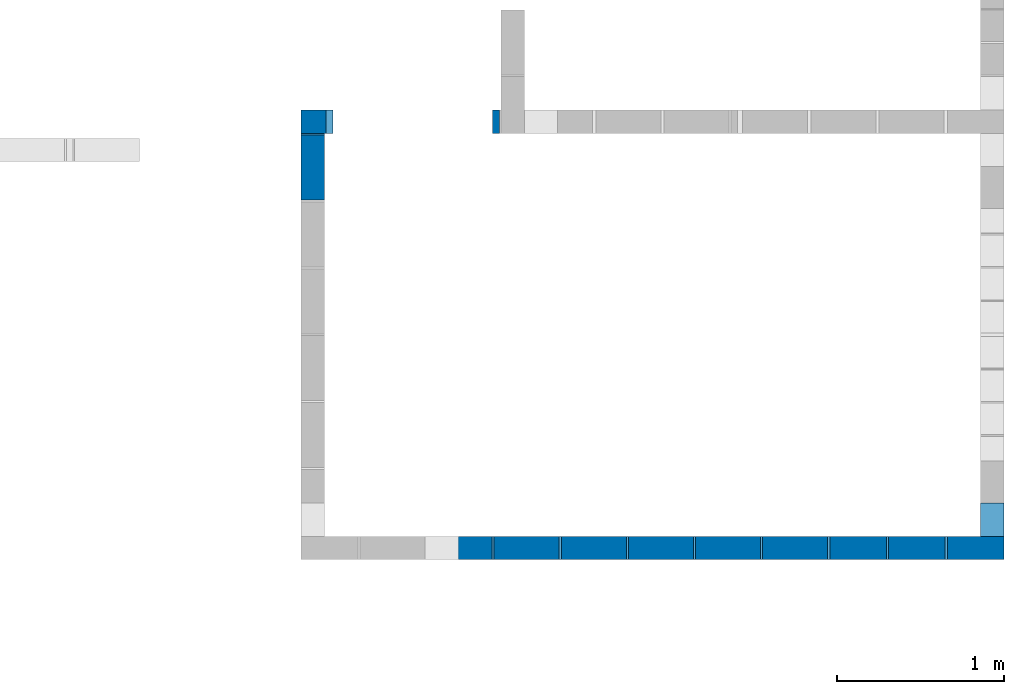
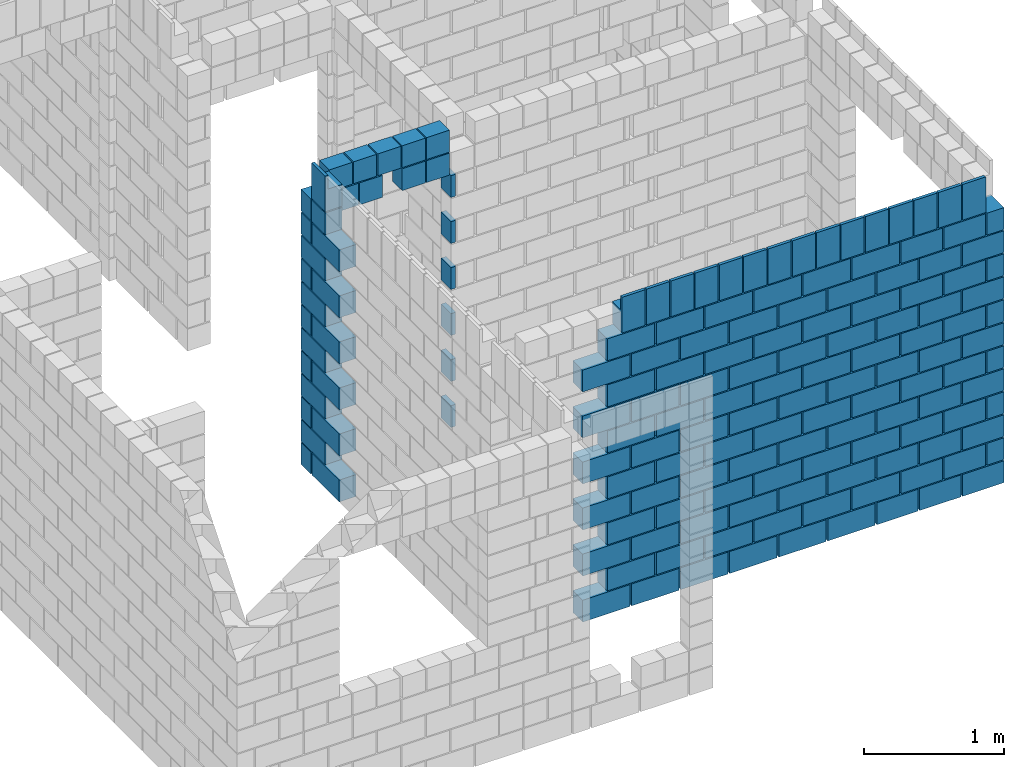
# One storey, part 4 of 12: 5 walls.
"""IFC4 building model written with IfcOpenShell, lengths in centimetres."""

import ifcopenshell
import ifcopenshell.guid

model = None  # the IFC model being written
_history = None  # IfcOwnerHistory: only IFC2X3 demands one
_inside = {}  # id of a spatial element -> (the spatial element, [elements in it])
_under = {}  # id of a project, library or spatial element -> (it, [spatial elements below it])
_declared = {}  # id of a project -> (the project, [libraries it declares])
_typed = {}  # id of a type object -> (the type object, [elements of that type])
_made_of = {}  # id of a material, layer set ... -> (it, [elements and type objects made of it])


def new_model(schema):
    """Start an empty IFC model of exactly this schema.

    Asked for "IFC4X3", IfcOpenShell would pick the latest addendum, in which some entities
    have other attributes; the version numbers below select the first issue.
    IFC2X3 requires an IfcOwnerHistory on every rooted entity: one is made here for all.
    """
    global model, _history
    if schema == "IFC4X3":
        model = ifcopenshell.file(schema_version=(4, 3, 0, 0))
    else:
        model = ifcopenshell.file(schema=schema)
    _inside.clear()
    _under.clear()
    _declared.clear()
    _typed.clear()
    _made_of.clear()
    _history = None
    if model.schema == "IFC2X3":
        org = make("IfcOrganization", Name="unknown")
        user = make(
            "IfcPersonAndOrganization",
            ThePerson=make("IfcPerson", FamilyName="unknown"),
            TheOrganization=org,
        )
        app = make(
            "IfcApplication",
            ApplicationDeveloper=org,
            Version="unknown",
            ApplicationFullName="unknown",
            ApplicationIdentifier="unknown",
        )
        _history = make(
            "IfcOwnerHistory",
            OwningUser=user,
            OwningApplication=app,
            ChangeAction="ADDED",
            CreationDate=0,
        )
    return model


def make(cls, **values):
    """One entity of the class cls with the attributes given. An attribute that is None is left unset."""
    return model.create_entity(
        cls, **{name: value for name, value in values.items() if value is not None}
    )


def rooted(cls, **values):
    """An entity with a GlobalId (a new one), such as an element, a storey or a relation."""
    return make(cls, GlobalId=ifcopenshell.guid.new(), OwnerHistory=_history, **values)


def si_unit(unit_type, name, prefix=None):
    """IfcSIUnit, for example si_unit("LENGTHUNIT", "METRE", prefix="MILLI")."""
    return make("IfcSIUnit", UnitType=unit_type, Prefix=prefix, Name=name)


def derived_unit(unit_type, elements):
    """IfcDerivedUnit: a product of units, each with its exponent."""
    return make(
        "IfcDerivedUnit",
        Elements=[
            make("IfcDerivedUnitElement", Unit=unit, Exponent=power)
            for unit, power in elements
        ],
        UnitType=unit_type,
    )


def assignment(units):
    """IfcUnitAssignment: the units of a project."""
    return None if units is None else make("IfcUnitAssignment", Units=units)


def point(xyz):
    """IfcCartesianPoint."""
    return None if xyz is None else make("IfcCartesianPoint", Coordinates=xyz)


def direction(xyz):
    """IfcDirection."""
    return None if xyz is None else make("IfcDirection", DirectionRatios=xyz)


def frame(location, z_axis=None, x_axis=None):
    """IfcAxis2Placement3D, a coordinate frame: its origin and axes. An axis left out is left unset."""
    return make(
        "IfcAxis2Placement3D",
        Location=point(location),
        Axis=direction(z_axis),
        RefDirection=direction(x_axis),
    )


def frame_2d(location, x_axis=None):
    """IfcAxis2Placement2D, a coordinate frame in the plane: its origin and x axis."""
    return make(
        "IfcAxis2Placement2D", Location=point(location), RefDirection=direction(x_axis)
    )


def origin():
    """The frame at (0, 0, 0) with its axes left unset."""
    return frame((0.0, 0.0, 0.0))


def origin_with_axes():
    """The frame at (0, 0, 0) with the z axis (0, 0, 1) and the x axis (1, 0, 0) written out."""
    return frame((0.0, 0.0, 0.0), z_axis=(0.0, 0.0, 1.0), x_axis=(1.0, 0.0, 0.0))


def origin_2d_with_axis():
    """The frame at (0, 0) in the plane with the x axis (1, 0) written out."""
    return frame_2d((0.0, 0.0), x_axis=(1.0, 0.0))


def place(relative_to, where):
    """IfcLocalPlacement: puts the frame where relative to a parent placement (None: the world)."""
    return make(
        "IfcLocalPlacement", PlacementRelTo=relative_to, RelativePlacement=where
    )


def context(
    kind, dimensions, precision=None, world=None, true_north=None, identifier=None
):
    """IfcGeometricRepresentationContext, for example the 3D "Model" context."""
    return make(
        "IfcGeometricRepresentationContext",
        ContextIdentifier=identifier,
        ContextType=kind,
        CoordinateSpaceDimension=dimensions,
        Precision=precision,
        WorldCoordinateSystem=world,
        TrueNorth=true_north,
    )


def project(units=None, contexts=None):
    """IfcProject with its units and contexts."""
    return rooted(
        "IfcProject",
        Name="project",
        RepresentationContexts=contexts,
        UnitsInContext=assignment(units),
    )


def spatial(cls, under=None, at=None, **own):
    """A site, building, storey or space (cls), placed at a placement, below another one or the project."""
    s = rooted(cls, ObjectPlacement=at, **own)
    if under is not None:
        _under.setdefault(under.id(), (under, []))[1].append(s)
    return s


def profile(cls, at=None, kind="AREA", **sizes):
    """A parametric profile (cls). Its sizes go by their IFC names, for example OverallWidth=200.0."""
    return make(cls, ProfileType=kind, Position=at, **sizes)


def rectangle(**sizes):
    """IfcRectangleProfileDef."""
    return profile("IfcRectangleProfileDef", **sizes)


def extrude(swept, where, along, depth):
    """IfcExtrudedAreaSolid: the profile swept, set in the frame where, extruded along a direction by depth."""
    return make(
        "IfcExtrudedAreaSolid",
        SweptArea=swept,
        Position=where,
        ExtrudedDirection=direction(along),
        Depth=depth,
    )


def shape(context_of_items, identifier, shape_type, items):
    """IfcShapeRepresentation: the items that make up one representation, for example the "Body"."""
    return make(
        "IfcShapeRepresentation",
        ContextOfItems=context_of_items,
        RepresentationIdentifier=identifier,
        RepresentationType=shape_type,
        Items=items,
    )


def made_of(thing, what):
    """Note that an element or type object is made of a material, layer set ...; save() writes the relation."""
    if what is not None:
        _made_of.setdefault(what.id(), (what, []))[1].append(thing)
    return thing


def element(
    cls,
    number,
    at=None,
    inside=None,
    cuts=None,
    type_object=None,
    material=None,
    context=None,
    identifier="Body",
    shape_type=None,
    held_by="IfcProductDefinitionShape",
    body=None,
    shapes=None,
    **own,
):
    """One element of the class cls, such as IfcWall. Its Tag is "e" and its number.

    at: its placement. inside: the storey or other place that contains it. cuts: it is an
    opening in that element (IfcRelVoidsElement). A single representation is given by context,
    identifier, shape_type and body (its items); several are given by shapes. held_by: the class
    of the entity that holds the representations. save() writes the other relations.
    """
    e = rooted(cls, Tag="e%d" % number, ObjectPlacement=at, **own)
    if body is not None:
        shapes = [shape(context, identifier, shape_type, body)]
    if shapes is not None:
        e.Representation = make(held_by, Representations=shapes)
    if inside is not None:
        _inside.setdefault(inside.id(), (inside, []))[1].append(e)
    if cuts is not None:
        rooted(
            "IfcRelVoidsElement", RelatingBuildingElement=cuts, RelatedOpeningElement=e
        )
    if type_object is not None:
        _typed.setdefault(type_object.id(), (type_object, []))[1].append(e)
    return made_of(e, material)


def aggregate(whole, parts):
    """IfcRelAggregates: a whole, such as a stair, and the parts it consists of."""
    return rooted("IfcRelAggregates", RelatingObject=whole, RelatedObjects=parts)


def save(model, path):
    """Write the relations noted so far, then the file.

    IfcRelAggregates (storeys below a building ...), IfcRelContainedInSpatialStructure (elements
    in a storey), IfcRelDefinesByType, IfcRelAssociatesMaterial and IfcRelDeclares: one each for
    every whole, place, type object, material and project.
    """
    for whole, parts in _under.values():
        aggregate(whole, parts)
    for where, things in _inside.values():
        rooted(
            "IfcRelContainedInSpatialStructure",
            RelatedElements=things,
            RelatingStructure=where,
        )
    for kind, things in _typed.values():
        rooted("IfcRelDefinesByType", RelatedObjects=things, RelatingType=kind)
    for what, things in _made_of.values():
        rooted("IfcRelAssociatesMaterial", RelatedObjects=things, RelatingMaterial=what)
    for by, libraries in _declared.values():
        rooted("IfcRelDeclares", RelatingContext=by, RelatedDefinitions=libraries)
    model.write(path)


model = new_model("IFC4")

# Units and contexts
model_context = context("Model", 3, precision=1e-05, world=origin_with_axes(), identifier="Body")
ifc_project = project(units=[si_unit("LENGTHUNIT", "METRE", prefix="CENTI"), si_unit("VOLUMEUNIT", "CUBIC_METRE"), si_unit("AREAUNIT", "SQUARE_METRE"), si_unit("POWERUNIT", "WATT"), si_unit("LUMINOUSFLUXUNIT", "LUMEN"), si_unit("ELECTRICCURRENTUNIT", "AMPERE"), si_unit("PRESSUREUNIT", "PASCAL", prefix="KILO"), si_unit("MASSUNIT", "GRAM", prefix="KILO"), si_unit("PLANEANGLEUNIT", "RADIAN"), derived_unit("VOLUMETRICFLOWRATEUNIT", [(si_unit("LENGTHUNIT", "METRE"), 3), (si_unit("TIMEUNIT", "SECOND"), -1)])], contexts=[model_context])

# Site, building, storey
site_placement = place(None, origin_with_axes())
site = spatial("IfcSite", under=ifc_project, at=site_placement)
building_placement = place(site_placement, origin())
building = spatial("IfcBuilding", under=site, at=building_placement)
storey_placement = place(building_placement, origin_with_axes())
storey = spatial("IfcBuildingStorey", under=building, at=storey_placement, Name="PISO", CompositionType="ELEMENT", Elevation=0.0)

# Walls
wall_1_placement = place(storey_placement, frame((286.5, 371.01, 239.0), z_axis=(0.0, 0.0, 1.0), x_axis=(1.0, 0.0, 0.0)))
element("IfcWall", 1, at=wall_1_placement, inside=storey, context=model_context, shape_type="SolidModel", body=[
    extrude(rectangle(XDim=19.0, YDim=14.0, at=origin_2d_with_axis()), frame((0.0, 10.0, -239.0), z_axis=(0.0, 0.0, 1.0), x_axis=(1.0, 0.0, 0.0)), (0.0, 0.0, 1.0), 19.0),
    extrude(rectangle(XDim=34.0, YDim=14.0, at=origin_2d_with_axis()), frame((-2.5, 0.0, -219.0), z_axis=(0.0, 0.0, 1.0), x_axis=(0.0, -1.0, 0.0)), (0.0, 0.0, 1.0), 19.0),
    extrude(rectangle(XDim=19.0, YDim=14.0, at=origin_2d_with_axis()), frame((0.0, 10.0, -199.0), z_axis=(0.0, 0.0, 1.0), x_axis=(1.0, 0.0, 0.0)), (0.0, 0.0, 1.0), 19.0),
    extrude(rectangle(XDim=34.0, YDim=14.0, at=origin_2d_with_axis()), frame((-2.5, 0.0, -179.0), z_axis=(0.0, 0.0, 1.0), x_axis=(0.0, -1.0, 0.0)), (0.0, 0.0, 1.0), 19.0),
    extrude(rectangle(XDim=19.0, YDim=14.0, at=origin_2d_with_axis()), frame((0.0, 10.0, -159.0), z_axis=(0.0, 0.0, 1.0), x_axis=(1.0, 0.0, 0.0)), (0.0, 0.0, 1.0), 19.0),
    extrude(rectangle(XDim=34.0, YDim=14.0, at=origin_2d_with_axis()), frame((-2.5, 0.0, -139.0), z_axis=(0.0, 0.0, 1.0), x_axis=(0.0, -1.0, 0.0)), (0.0, 0.0, 1.0), 19.0),
    extrude(rectangle(XDim=19.0, YDim=14.0, at=origin_2d_with_axis()), frame((0.0, 10.0, -119.0), z_axis=(0.0, 0.0, 1.0), x_axis=(1.0, 0.0, 0.0)), (0.0, 0.0, 1.0), 19.0),
    extrude(rectangle(XDim=34.0, YDim=14.0, at=origin_2d_with_axis()), frame((-2.5, 0.0, -99.0), z_axis=(0.0, 0.0, 1.0), x_axis=(0.0, -1.0, 0.0)), (0.0, 0.0, 1.0), 19.0),
    extrude(rectangle(XDim=19.0, YDim=14.0, at=origin_2d_with_axis()), frame((0.0, 10.0, -79.0), z_axis=(0.0, 0.0, 1.0), x_axis=(1.0, 0.0, 0.0)), (0.0, 0.0, 1.0), 19.0),
    extrude(rectangle(XDim=34.0, YDim=14.0, at=origin_2d_with_axis()), frame((-2.5, 0.0, -59.0), z_axis=(0.0, 0.0, 1.0), x_axis=(0.0, -1.0, 0.0)), (0.0, 0.0, 1.0), 19.0),
    extrude(rectangle(XDim=19.0, YDim=14.0, at=origin_2d_with_axis()), frame((0.0, 10.0, -39.0), z_axis=(0.0, 0.0, 1.0), x_axis=(1.0, 0.0, 0.0)), (0.0, 0.0, 1.0), 19.0),
    extrude(rectangle(XDim=19.0, YDim=14.0, at=origin_2d_with_axis()), frame((0.0, 10.0, -19.0), z_axis=(0.0, 0.0, 1.0), x_axis=(1.0, 0.0, 0.0)), (0.0, 0.0, 1.0), 19.0),
])
wall_2_placement = place(storey_placement, frame((682.01, 135.0, 239.0), z_axis=(0.0, 0.0, 1.0), x_axis=(1.0, 0.0, 0.0)))
element("IfcWall", 2, at=wall_2_placement, inside=storey, context=model_context, shape_type="SolidModel", body=[
    extrude(rectangle(XDim=34.0, YDim=14.0, at=origin_2d_with_axis()), frame((0.0, -10.0, -239.0), z_axis=(0.0, 0.0, 1.0), x_axis=(-1.0, 0.0, 0.0)), (0.0, 0.0, 1.0), 19.0),
    extrude(rectangle(XDim=34.0, YDim=14.0, at=origin_2d_with_axis()), frame((10.0, 0.0, -219.0), z_axis=(0.0, 0.0, 1.0), x_axis=(0.0, 1.0, 0.0)), (0.0, 0.0, 1.0), 19.0),
    extrude(rectangle(XDim=34.0, YDim=14.0, at=origin_2d_with_axis()), frame((0.0, -10.0, -199.0), z_axis=(0.0, 0.0, 1.0), x_axis=(-1.0, 0.0, 0.0)), (0.0, 0.0, 1.0), 19.0),
    extrude(rectangle(XDim=34.0, YDim=14.0, at=origin_2d_with_axis()), frame((10.0, 0.0, -179.0), z_axis=(0.0, 0.0, 1.0), x_axis=(0.0, 1.0, 0.0)), (0.0, 0.0, 1.0), 19.0),
    extrude(rectangle(XDim=34.0, YDim=14.0, at=origin_2d_with_axis()), frame((0.0, -10.0, -159.0), z_axis=(0.0, 0.0, 1.0), x_axis=(-1.0, 0.0, 0.0)), (0.0, 0.0, 1.0), 19.0),
    extrude(rectangle(XDim=34.0, YDim=14.0, at=origin_2d_with_axis()), frame((10.0, 0.0, -139.0), z_axis=(0.0, 0.0, 1.0), x_axis=(0.0, 1.0, 0.0)), (0.0, 0.0, 1.0), 19.0),
    extrude(rectangle(XDim=34.0, YDim=14.0, at=origin_2d_with_axis()), frame((0.0, -10.0, -119.0), z_axis=(0.0, 0.0, 1.0), x_axis=(-1.0, 0.0, 0.0)), (0.0, 0.0, 1.0), 19.0),
    extrude(rectangle(XDim=34.0, YDim=14.0, at=origin_2d_with_axis()), frame((10.0, 0.0, -99.0), z_axis=(0.0, 0.0, 1.0), x_axis=(0.0, 1.0, 0.0)), (0.0, 0.0, 1.0), 19.0),
    extrude(rectangle(XDim=34.0, YDim=14.0, at=origin_2d_with_axis()), frame((0.0, -10.0, -79.0), z_axis=(0.0, 0.0, 1.0), x_axis=(-1.0, 0.0, 0.0)), (0.0, 0.0, 1.0), 19.0),
    extrude(rectangle(XDim=34.0, YDim=14.0, at=origin_2d_with_axis()), frame((10.0, 0.0, -59.0), z_axis=(0.0, 0.0, 1.0), x_axis=(0.0, 1.0, 0.0)), (0.0, 0.0, 1.0), 19.0),
    extrude(rectangle(XDim=34.0, YDim=14.0, at=origin_2d_with_axis()), frame((0.0, -10.0, -39.0), z_axis=(0.0, 0.0, 1.0), x_axis=(-1.0, 0.0, 0.0)), (0.0, 0.0, 1.0), 19.0),
    extrude(rectangle(XDim=19.0, YDim=14.0, at=origin_2d_with_axis()), frame((10.0, -7.5, -19.0), z_axis=(0.0, 0.0, 1.0), x_axis=(0.0, 1.0, 0.0)), (0.0, 0.0, 1.0), 19.0),
])
wall_3_placement = place(storey_placement, frame((284.0, 353.4378571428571, 271.0), z_axis=(0.0, 0.0, 1.0), x_axis=(1.0, 0.0, 0.0)))
element("IfcWall", 3, at=wall_3_placement, inside=storey, Name="PAR-PISO-12", context=model_context, shape_type="SolidModel", body=[
    extrude(rectangle(XDim=39.0, YDim=14.0, at=origin_2d_with_axis()), frame((0.0, -0.072142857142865, -271.0), z_axis=(0.0, 0.0, 1.0), x_axis=(0.0, -1.0, 0.0)), (0.0, 0.0, 1.0), 19.0),
    extrude(rectangle(XDim=39.0, YDim=14.0, at=origin_2d_with_axis()), frame((0.0, -0.072142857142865, -231.0), z_axis=(0.0, 0.0, 1.0), x_axis=(0.0, -1.0, 0.0)), (0.0, 0.0, 1.0), 19.0),
    extrude(rectangle(XDim=39.0, YDim=14.0, at=origin_2d_with_axis()), frame((0.0, -0.072142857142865, -191.0), z_axis=(0.0, 0.0, 1.0), x_axis=(0.0, -1.0, 0.0)), (0.0, 0.0, 1.0), 19.0),
    extrude(rectangle(XDim=39.0, YDim=14.0, at=origin_2d_with_axis()), frame((0.0, -0.072142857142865, -151.0), z_axis=(0.0, 0.0, 1.0), x_axis=(0.0, -1.0, 0.0)), (0.0, 0.0, 1.0), 19.0),
    extrude(rectangle(XDim=39.0, YDim=14.0, at=origin_2d_with_axis()), frame((0.0, -0.072142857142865, -111.0), z_axis=(0.0, 0.0, 1.0), x_axis=(0.0, -1.0, 0.0)), (0.0, 0.0, 1.0), 19.0),
    extrude(rectangle(XDim=39.0, YDim=14.0, at=origin_2d_with_axis()), frame((0.0, -0.072142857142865, -71.0), z_axis=(0.0, 0.0, 1.0), x_axis=(0.0, -1.0, 0.0)), (0.0, 0.0, 1.0), 19.0),
    extrude(rectangle(XDim=19.0, YDim=14.0, at=origin_2d_with_axis()), frame((0.0, 10.072142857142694, -51.0), z_axis=(0.0, 0.0, 1.0), x_axis=(0.0, -1.0, 0.0)), (0.0, 0.0, 1.0), 19.0),
    extrude(rectangle(XDim=19.0, YDim=2.5, at=origin_2d_with_axis()), frame((-5.75, 10.072142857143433, -12.0), z_axis=(0.0, 0.0, 1.0), x_axis=(0.0, -1.0, 0.0)), (0.0, 0.0, 1.0), 12.0),
    extrude(rectangle(XDim=19.0, YDim=14.0, at=origin_2d_with_axis()), frame((0.0, 10.072142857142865, -31.0), z_axis=(0.0, 0.0, 1.0), x_axis=(0.0, -1.0, 0.0)), (0.0, 0.0, 1.0), 19.0),
])
wall_4_placement = place(storey_placement, frame((344.005, 381.01, 259.0), z_axis=(0.0, 0.0, 1.0), x_axis=(1.0, 0.0, 0.0)))
element("IfcWall", 4, at=wall_4_placement, inside=storey, Name="PAR-PISO-6", context=model_context, shape_type="SolidModel", body=[
    extrude(rectangle(XDim=4.0, YDim=14.0, at=origin_2d_with_axis()), frame((50.005, 0.0, -259.0), z_axis=(0.0, 0.0, 1.0), x_axis=(1.0, 0.0, 0.0)), (0.0, 0.0, 1.0), 19.0),
    extrude(rectangle(XDim=4.0, YDim=14.0, at=origin_2d_with_axis()), frame((-50.005, 0.0, -239.0), z_axis=(0.0, 0.0, 1.0), x_axis=(1.0, 0.0, 0.0)), (0.0, 0.0, 1.0), 19.0),
    extrude(rectangle(XDim=4.0, YDim=14.0, at=origin_2d_with_axis()), frame((50.005, 0.0, -219.0), z_axis=(0.0, 0.0, 1.0), x_axis=(1.0, 0.0, 0.0)), (0.0, 0.0, 1.0), 19.0),
    extrude(rectangle(XDim=4.0, YDim=14.0, at=origin_2d_with_axis()), frame((-50.005, 0.0, -199.0), z_axis=(0.0, 0.0, 1.0), x_axis=(1.0, 0.0, 0.0)), (0.0, 0.0, 1.0), 19.0),
    extrude(rectangle(XDim=4.0, YDim=14.0, at=origin_2d_with_axis()), frame((50.005, 0.0, -179.0), z_axis=(0.0, 0.0, 1.0), x_axis=(1.0, 0.0, 0.0)), (0.0, 0.0, 1.0), 19.0),
    extrude(rectangle(XDim=4.0, YDim=14.0, at=origin_2d_with_axis()), frame((-50.005, 0.0, -159.0), z_axis=(0.0, 0.0, 1.0), x_axis=(1.0, 0.0, 0.0)), (0.0, 0.0, 1.0), 19.0),
    extrude(rectangle(XDim=4.0, YDim=14.0, at=origin_2d_with_axis()), frame((50.005, 0.0, -139.0), z_axis=(0.0, 0.0, 1.0), x_axis=(1.0, 0.0, 0.0)), (0.0, 0.0, 1.0), 19.0),
    extrude(rectangle(XDim=4.0, YDim=14.0, at=origin_2d_with_axis()), frame((-50.005, 0.0, -119.0), z_axis=(0.0, 0.0, 1.0), x_axis=(1.0, 0.0, 0.0)), (0.0, 0.0, 1.0), 19.0),
    extrude(rectangle(XDim=4.0, YDim=14.0, at=origin_2d_with_axis()), frame((50.005, 0.0, -99.0), z_axis=(0.0, 0.0, 1.0), x_axis=(1.0, 0.0, 0.0)), (0.0, 0.0, 1.0), 19.0),
    extrude(rectangle(XDim=4.0, YDim=14.0, at=origin_2d_with_axis()), frame((-50.005, 0.0, -79.0), z_axis=(0.0, 0.0, 1.0), x_axis=(1.0, 0.0, 0.0)), (0.0, 0.0, 1.0), 19.0),
    extrude(rectangle(XDim=4.0, YDim=14.0, at=origin_2d_with_axis()), frame((50.005, 0.0, -59.0), z_axis=(0.0, 0.0, 1.0), x_axis=(1.0, 0.0, 0.0)), (0.0, 0.0, 1.0), 19.0),
    extrude(rectangle(XDim=19.0, YDim=14.0, at=origin_2d_with_axis()), frame((-37.505, 0.0, -39.0), z_axis=(0.0, 0.0, 1.0), x_axis=(1.0, 0.0, 0.0)), (0.0, 0.0, 1.0), 19.0),
    extrude(rectangle(XDim=19.0, YDim=14.0, at=origin_2d_with_axis()), frame((-17.505, 0.0, -39.0), z_axis=(0.0, 0.0, 1.0), x_axis=(1.0, 0.0, 0.0)), (0.0, 0.0, 1.0), 19.0),
    extrude(rectangle(XDim=19.0, YDim=14.0, at=origin_2d_with_axis()), frame((17.505, 0.0, -39.0), z_axis=(0.0, 0.0, 1.0), x_axis=(1.0, 0.0, 0.0)), (0.0, 0.0, 1.0), 19.0),
    extrude(rectangle(XDim=19.0, YDim=14.0, at=origin_2d_with_axis()), frame((37.505, 0.0, -39.0), z_axis=(0.0, 0.0, 1.0), x_axis=(1.0, 0.0, 0.0)), (0.0, 0.0, 1.0), 19.0),
    extrude(rectangle(XDim=19.0, YDim=14.0, at=origin_2d_with_axis()), frame((-42.505, 0.0, -19.0), z_axis=(0.0, 0.0, 1.0), x_axis=(1.0, 0.0, 0.0)), (0.0, 0.0, 1.0), 19.0),
    extrude(rectangle(XDim=19.0, YDim=14.0, at=origin_2d_with_axis()), frame((-22.505, 0.0, -19.0), z_axis=(0.0, 0.0, 1.0), x_axis=(1.0, 0.0, 0.0)), (0.0, 0.0, 1.0), 19.0),
    extrude(rectangle(XDim=19.0, YDim=14.0, at=origin_2d_with_axis()), frame((-2.505, 0.0, -19.0), z_axis=(0.0, 0.0, 1.0), x_axis=(1.0, 0.0, 0.0)), (0.0, 0.0, 1.0), 19.0),
    extrude(rectangle(XDim=19.0, YDim=14.0, at=origin_2d_with_axis()), frame((17.495, 0.0, -19.0), z_axis=(0.0, 0.0, 1.0), x_axis=(1.0, 0.0, 0.0)), (0.0, 0.0, 1.0), 19.0),
    extrude(rectangle(XDim=19.0, YDim=14.0, at=origin_2d_with_axis()), frame((37.495, 0.0, -19.0), z_axis=(0.0, 0.0, 1.0), x_axis=(1.0, 0.0, 0.0)), (0.0, 0.0, 1.0), 19.0),
])
wall_5_placement = place(storey_placement, frame((518.306, 125.0, 271.0), z_axis=(0.0, 0.0, 1.0), x_axis=(1.0, 0.0, 0.0)))
element("IfcWall", 5, at=wall_5_placement, inside=storey, Name="PAR-PISO-9", context=model_context, shape_type="SolidModel", body=[
    extrude(rectangle(XDim=34.0, YDim=14.0, at=origin_2d_with_axis()), frame((128.403, 0.0, -271.0), z_axis=(0.0, 0.0, 1.0), x_axis=(-1.0, 0.0, 0.0)), (0.0, 0.0, 1.0), 19.0),
    extrude(rectangle(XDim=34.0, YDim=14.0, at=origin_2d_with_axis()), frame((93.102, 0.0, -271.0), z_axis=(0.0, 0.0, 1.0), x_axis=(-1.0, 0.0, 0.0)), (0.0, 0.0, 1.0), 19.0),
    extrude(rectangle(XDim=39.0, YDim=14.0, at=origin_2d_with_axis()), frame((55.301, 0.0, -271.0), z_axis=(0.0, 0.0, 1.0), x_axis=(-1.0, 0.0, 0.0)), (0.0, 0.0, 1.0), 19.0),
    extrude(rectangle(XDim=39.0, YDim=14.0, at=origin_2d_with_axis()), frame((15.0, 0.0, -271.0), z_axis=(0.0, 0.0, 1.0), x_axis=(-1.0, 0.0, 0.0)), (0.0, 0.0, 1.0), 19.0),
    extrude(rectangle(XDim=39.0, YDim=14.0, at=origin_2d_with_axis()), frame((-25.301, 0.0, -271.0), z_axis=(0.0, 0.0, 1.0), x_axis=(-1.0, 0.0, 0.0)), (0.0, 0.0, 1.0), 19.0),
    extrude(rectangle(XDim=39.0, YDim=14.0, at=origin_2d_with_axis()), frame((-65.602, 0.0, -271.0), z_axis=(0.0, 0.0, 1.0), x_axis=(-1.0, 0.0, 0.0)), (0.0, 0.0, 1.0), 19.0),
    extrude(rectangle(XDim=39.0, YDim=14.0, at=origin_2d_with_axis()), frame((-105.903, 0.0, -271.0), z_axis=(0.0, 0.0, 1.0), x_axis=(-1.0, 0.0, 0.0)), (0.0, 0.0, 1.0), 19.0),
    extrude(rectangle(XDim=39.0, YDim=14.0, at=origin_2d_with_axis()), frame((-146.204, 0.0, -271.0), z_axis=(0.0, 0.0, 1.0), x_axis=(-1.0, 0.0, 0.0)), (0.0, 0.0, 1.0), 19.0),
    extrude(rectangle(XDim=34.0, YDim=14.0, at=origin_2d_with_axis()), frame((148.4303636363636, 0.0, -251.0), z_axis=(0.0, 0.0, 1.0), x_axis=(-1.0, 0.0, 0.0)), (0.0, 0.0, 1.0), 19.0),
    extrude(rectangle(XDim=34.0, YDim=14.0, at=origin_2d_with_axis()), frame((113.15672727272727, 0.0, -251.0), z_axis=(0.0, 0.0, 1.0), x_axis=(-1.0, 0.0, 0.0)), (0.0, 0.0, 1.0), 19.0),
    extrude(rectangle(XDim=39.0, YDim=14.0, at=origin_2d_with_axis()), frame((75.38309090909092, 0.0, -251.0), z_axis=(0.0, 0.0, 1.0), x_axis=(-1.0, 0.0, 0.0)), (0.0, 0.0, 1.0), 19.0),
    extrude(rectangle(XDim=39.0, YDim=14.0, at=origin_2d_with_axis()), frame((35.10945454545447, 0.0, -251.0), z_axis=(0.0, 0.0, 1.0), x_axis=(-1.0, 0.0, 0.0)), (0.0, 0.0, 1.0), 19.0),
    extrude(rectangle(XDim=39.0, YDim=14.0, at=origin_2d_with_axis()), frame((-5.164181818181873, 0.0, -251.0), z_axis=(0.0, 0.0, 1.0), x_axis=(-1.0, 0.0, 0.0)), (0.0, 0.0, 1.0), 19.0),
    extrude(rectangle(XDim=39.0, YDim=14.0, at=origin_2d_with_axis()), frame((-45.437818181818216, 0.0, -251.0), z_axis=(0.0, 0.0, 1.0), x_axis=(-1.0, 0.0, 0.0)), (0.0, 0.0, 1.0), 19.0),
    extrude(rectangle(XDim=39.0, YDim=14.0, at=origin_2d_with_axis()), frame((-85.71145454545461, 0.0, -251.0), z_axis=(0.0, 0.0, 1.0), x_axis=(-1.0, 0.0, 0.0)), (0.0, 0.0, 1.0), 19.0),
    extrude(rectangle(XDim=39.0, YDim=14.0, at=origin_2d_with_axis()), frame((-125.98509090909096, 0.0, -251.0), z_axis=(0.0, 0.0, 1.0), x_axis=(-1.0, 0.0, 0.0)), (0.0, 0.0, 1.0), 19.0),
    extrude(rectangle(XDim=34.0, YDim=14.0, at=origin_2d_with_axis()), frame((128.403, 0.0, -231.0), z_axis=(0.0, 0.0, 1.0), x_axis=(-1.0, 0.0, 0.0)), (0.0, 0.0, 1.0), 19.0),
    extrude(rectangle(XDim=34.0, YDim=14.0, at=origin_2d_with_axis()), frame((93.102, 0.0, -231.0), z_axis=(0.0, 0.0, 1.0), x_axis=(-1.0, 0.0, 0.0)), (0.0, 0.0, 1.0), 19.0),
    extrude(rectangle(XDim=39.0, YDim=14.0, at=origin_2d_with_axis()), frame((55.301, 0.0, -231.0), z_axis=(0.0, 0.0, 1.0), x_axis=(-1.0, 0.0, 0.0)), (0.0, 0.0, 1.0), 19.0),
    extrude(rectangle(XDim=39.0, YDim=14.0, at=origin_2d_with_axis()), frame((15.0, 0.0, -231.0), z_axis=(0.0, 0.0, 1.0), x_axis=(-1.0, 0.0, 0.0)), (0.0, 0.0, 1.0), 19.0),
    extrude(rectangle(XDim=39.0, YDim=14.0, at=origin_2d_with_axis()), frame((-25.301, 0.0, -231.0), z_axis=(0.0, 0.0, 1.0), x_axis=(-1.0, 0.0, 0.0)), (0.0, 0.0, 1.0), 19.0),
    extrude(rectangle(XDim=39.0, YDim=14.0, at=origin_2d_with_axis()), frame((-65.602, 0.0, -231.0), z_axis=(0.0, 0.0, 1.0), x_axis=(-1.0, 0.0, 0.0)), (0.0, 0.0, 1.0), 19.0),
    extrude(rectangle(XDim=39.0, YDim=14.0, at=origin_2d_with_axis()), frame((-105.903, 0.0, -231.0), z_axis=(0.0, 0.0, 1.0), x_axis=(-1.0, 0.0, 0.0)), (0.0, 0.0, 1.0), 19.0),
    extrude(rectangle(XDim=39.0, YDim=14.0, at=origin_2d_with_axis()), frame((-146.204, 0.0, -231.0), z_axis=(0.0, 0.0, 1.0), x_axis=(-1.0, 0.0, 0.0)), (0.0, 0.0, 1.0), 19.0),
    extrude(rectangle(XDim=34.0, YDim=14.0, at=origin_2d_with_axis()), frame((148.4303636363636, 0.0, -211.0), z_axis=(0.0, 0.0, 1.0), x_axis=(-1.0, 0.0, 0.0)), (0.0, 0.0, 1.0), 19.0),
    extrude(rectangle(XDim=34.0, YDim=14.0, at=origin_2d_with_axis()), frame((113.15672727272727, 0.0, -211.0), z_axis=(0.0, 0.0, 1.0), x_axis=(-1.0, 0.0, 0.0)), (0.0, 0.0, 1.0), 19.0),
    extrude(rectangle(XDim=39.0, YDim=14.0, at=origin_2d_with_axis()), frame((75.38309090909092, 0.0, -211.0), z_axis=(0.0, 0.0, 1.0), x_axis=(-1.0, 0.0, 0.0)), (0.0, 0.0, 1.0), 19.0),
    extrude(rectangle(XDim=39.0, YDim=14.0, at=origin_2d_with_axis()), frame((35.10945454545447, 0.0, -211.0), z_axis=(0.0, 0.0, 1.0), x_axis=(-1.0, 0.0, 0.0)), (0.0, 0.0, 1.0), 19.0),
    extrude(rectangle(XDim=39.0, YDim=14.0, at=origin_2d_with_axis()), frame((-5.164181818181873, 0.0, -211.0), z_axis=(0.0, 0.0, 1.0), x_axis=(-1.0, 0.0, 0.0)), (0.0, 0.0, 1.0), 19.0),
    extrude(rectangle(XDim=39.0, YDim=14.0, at=origin_2d_with_axis()), frame((-45.437818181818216, 0.0, -211.0), z_axis=(0.0, 0.0, 1.0), x_axis=(-1.0, 0.0, 0.0)), (0.0, 0.0, 1.0), 19.0),
    extrude(rectangle(XDim=39.0, YDim=14.0, at=origin_2d_with_axis()), frame((-85.71145454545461, 0.0, -211.0), z_axis=(0.0, 0.0, 1.0), x_axis=(-1.0, 0.0, 0.0)), (0.0, 0.0, 1.0), 19.0),
    extrude(rectangle(XDim=39.0, YDim=14.0, at=origin_2d_with_axis()), frame((-125.98509090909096, 0.0, -211.0), z_axis=(0.0, 0.0, 1.0), x_axis=(-1.0, 0.0, 0.0)), (0.0, 0.0, 1.0), 19.0),
    extrude(rectangle(XDim=34.0, YDim=14.0, at=origin_2d_with_axis()), frame((128.403, 0.0, -191.0), z_axis=(0.0, 0.0, 1.0), x_axis=(-1.0, 0.0, 0.0)), (0.0, 0.0, 1.0), 19.0),
    extrude(rectangle(XDim=34.0, YDim=14.0, at=origin_2d_with_axis()), frame((93.102, 0.0, -191.0), z_axis=(0.0, 0.0, 1.0), x_axis=(-1.0, 0.0, 0.0)), (0.0, 0.0, 1.0), 19.0),
    extrude(rectangle(XDim=39.0, YDim=14.0, at=origin_2d_with_axis()), frame((55.301, 0.0, -191.0), z_axis=(0.0, 0.0, 1.0), x_axis=(-1.0, 0.0, 0.0)), (0.0, 0.0, 1.0), 19.0),
    extrude(rectangle(XDim=39.0, YDim=14.0, at=origin_2d_with_axis()), frame((15.0, 0.0, -191.0), z_axis=(0.0, 0.0, 1.0), x_axis=(-1.0, 0.0, 0.0)), (0.0, 0.0, 1.0), 19.0),
    extrude(rectangle(XDim=39.0, YDim=14.0, at=origin_2d_with_axis()), frame((-25.301, 0.0, -191.0), z_axis=(0.0, 0.0, 1.0), x_axis=(-1.0, 0.0, 0.0)), (0.0, 0.0, 1.0), 19.0),
    extrude(rectangle(XDim=39.0, YDim=14.0, at=origin_2d_with_axis()), frame((-65.602, 0.0, -191.0), z_axis=(0.0, 0.0, 1.0), x_axis=(-1.0, 0.0, 0.0)), (0.0, 0.0, 1.0), 19.0),
    extrude(rectangle(XDim=39.0, YDim=14.0, at=origin_2d_with_axis()), frame((-105.903, 0.0, -191.0), z_axis=(0.0, 0.0, 1.0), x_axis=(-1.0, 0.0, 0.0)), (0.0, 0.0, 1.0), 19.0),
    extrude(rectangle(XDim=39.0, YDim=14.0, at=origin_2d_with_axis()), frame((-146.204, 0.0, -191.0), z_axis=(0.0, 0.0, 1.0), x_axis=(-1.0, 0.0, 0.0)), (0.0, 0.0, 1.0), 19.0),
    extrude(rectangle(XDim=34.0, YDim=14.0, at=origin_2d_with_axis()), frame((148.4303636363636, 0.0, -171.0), z_axis=(0.0, 0.0, 1.0), x_axis=(-1.0, 0.0, 0.0)), (0.0, 0.0, 1.0), 19.0),
    extrude(rectangle(XDim=34.0, YDim=14.0, at=origin_2d_with_axis()), frame((113.15672727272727, 0.0, -171.0), z_axis=(0.0, 0.0, 1.0), x_axis=(-1.0, 0.0, 0.0)), (0.0, 0.0, 1.0), 19.0),
    extrude(rectangle(XDim=39.0, YDim=14.0, at=origin_2d_with_axis()), frame((75.38309090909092, 0.0, -171.0), z_axis=(0.0, 0.0, 1.0), x_axis=(-1.0, 0.0, 0.0)), (0.0, 0.0, 1.0), 19.0),
    extrude(rectangle(XDim=39.0, YDim=14.0, at=origin_2d_with_axis()), frame((35.10945454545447, 0.0, -171.0), z_axis=(0.0, 0.0, 1.0), x_axis=(-1.0, 0.0, 0.0)), (0.0, 0.0, 1.0), 19.0),
    extrude(rectangle(XDim=39.0, YDim=14.0, at=origin_2d_with_axis()), frame((-5.164181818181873, 0.0, -171.0), z_axis=(0.0, 0.0, 1.0), x_axis=(-1.0, 0.0, 0.0)), (0.0, 0.0, 1.0), 19.0),
    extrude(rectangle(XDim=39.0, YDim=14.0, at=origin_2d_with_axis()), frame((-45.437818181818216, 0.0, -171.0), z_axis=(0.0, 0.0, 1.0), x_axis=(-1.0, 0.0, 0.0)), (0.0, 0.0, 1.0), 19.0),
    extrude(rectangle(XDim=39.0, YDim=14.0, at=origin_2d_with_axis()), frame((-85.71145454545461, 0.0, -171.0), z_axis=(0.0, 0.0, 1.0), x_axis=(-1.0, 0.0, 0.0)), (0.0, 0.0, 1.0), 19.0),
    extrude(rectangle(XDim=39.0, YDim=14.0, at=origin_2d_with_axis()), frame((-125.98509090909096, 0.0, -171.0), z_axis=(0.0, 0.0, 1.0), x_axis=(-1.0, 0.0, 0.0)), (0.0, 0.0, 1.0), 19.0),
    extrude(rectangle(XDim=34.0, YDim=14.0, at=origin_2d_with_axis()), frame((128.403, 0.0, -151.0), z_axis=(0.0, 0.0, 1.0), x_axis=(-1.0, 0.0, 0.0)), (0.0, 0.0, 1.0), 19.0),
    extrude(rectangle(XDim=34.0, YDim=14.0, at=origin_2d_with_axis()), frame((93.102, 0.0, -151.0), z_axis=(0.0, 0.0, 1.0), x_axis=(-1.0, 0.0, 0.0)), (0.0, 0.0, 1.0), 19.0),
    extrude(rectangle(XDim=39.0, YDim=14.0, at=origin_2d_with_axis()), frame((55.301, 0.0, -151.0), z_axis=(0.0, 0.0, 1.0), x_axis=(-1.0, 0.0, 0.0)), (0.0, 0.0, 1.0), 19.0),
    extrude(rectangle(XDim=39.0, YDim=14.0, at=origin_2d_with_axis()), frame((15.0, 0.0, -151.0), z_axis=(0.0, 0.0, 1.0), x_axis=(-1.0, 0.0, 0.0)), (0.0, 0.0, 1.0), 19.0),
    extrude(rectangle(XDim=39.0, YDim=14.0, at=origin_2d_with_axis()), frame((-25.301, 0.0, -151.0), z_axis=(0.0, 0.0, 1.0), x_axis=(-1.0, 0.0, 0.0)), (0.0, 0.0, 1.0), 19.0),
    extrude(rectangle(XDim=39.0, YDim=14.0, at=origin_2d_with_axis()), frame((-65.602, 0.0, -151.0), z_axis=(0.0, 0.0, 1.0), x_axis=(-1.0, 0.0, 0.0)), (0.0, 0.0, 1.0), 19.0),
    extrude(rectangle(XDim=39.0, YDim=14.0, at=origin_2d_with_axis()), frame((-105.903, 0.0, -151.0), z_axis=(0.0, 0.0, 1.0), x_axis=(-1.0, 0.0, 0.0)), (0.0, 0.0, 1.0), 19.0),
    extrude(rectangle(XDim=39.0, YDim=14.0, at=origin_2d_with_axis()), frame((-146.204, 0.0, -151.0), z_axis=(0.0, 0.0, 1.0), x_axis=(-1.0, 0.0, 0.0)), (0.0, 0.0, 1.0), 19.0),
    extrude(rectangle(XDim=34.0, YDim=14.0, at=origin_2d_with_axis()), frame((148.4303636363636, 0.0, -131.0), z_axis=(0.0, 0.0, 1.0), x_axis=(-1.0, 0.0, 0.0)), (0.0, 0.0, 1.0), 19.0),
    extrude(rectangle(XDim=34.0, YDim=14.0, at=origin_2d_with_axis()), frame((113.15672727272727, 0.0, -131.0), z_axis=(0.0, 0.0, 1.0), x_axis=(-1.0, 0.0, 0.0)), (0.0, 0.0, 1.0), 19.0),
    extrude(rectangle(XDim=39.0, YDim=14.0, at=origin_2d_with_axis()), frame((75.38309090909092, 0.0, -131.0), z_axis=(0.0, 0.0, 1.0), x_axis=(-1.0, 0.0, 0.0)), (0.0, 0.0, 1.0), 19.0),
    extrude(rectangle(XDim=39.0, YDim=14.0, at=origin_2d_with_axis()), frame((35.10945454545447, 0.0, -131.0), z_axis=(0.0, 0.0, 1.0), x_axis=(-1.0, 0.0, 0.0)), (0.0, 0.0, 1.0), 19.0),
    extrude(rectangle(XDim=39.0, YDim=14.0, at=origin_2d_with_axis()), frame((-5.164181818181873, 0.0, -131.0), z_axis=(0.0, 0.0, 1.0), x_axis=(-1.0, 0.0, 0.0)), (0.0, 0.0, 1.0), 19.0),
    extrude(rectangle(XDim=39.0, YDim=14.0, at=origin_2d_with_axis()), frame((-45.437818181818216, 0.0, -131.0), z_axis=(0.0, 0.0, 1.0), x_axis=(-1.0, 0.0, 0.0)), (0.0, 0.0, 1.0), 19.0),
    extrude(rectangle(XDim=39.0, YDim=14.0, at=origin_2d_with_axis()), frame((-85.71145454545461, 0.0, -131.0), z_axis=(0.0, 0.0, 1.0), x_axis=(-1.0, 0.0, 0.0)), (0.0, 0.0, 1.0), 19.0),
    extrude(rectangle(XDim=39.0, YDim=14.0, at=origin_2d_with_axis()), frame((-125.98509090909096, 0.0, -131.0), z_axis=(0.0, 0.0, 1.0), x_axis=(-1.0, 0.0, 0.0)), (0.0, 0.0, 1.0), 19.0),
    extrude(rectangle(XDim=34.0, YDim=14.0, at=origin_2d_with_axis()), frame((128.403, 0.0, -111.0), z_axis=(0.0, 0.0, 1.0), x_axis=(-1.0, 0.0, 0.0)), (0.0, 0.0, 1.0), 19.0),
    extrude(rectangle(XDim=34.0, YDim=14.0, at=origin_2d_with_axis()), frame((93.102, 0.0, -111.0), z_axis=(0.0, 0.0, 1.0), x_axis=(-1.0, 0.0, 0.0)), (0.0, 0.0, 1.0), 19.0),
    extrude(rectangle(XDim=39.0, YDim=14.0, at=origin_2d_with_axis()), frame((55.301, 0.0, -111.0), z_axis=(0.0, 0.0, 1.0), x_axis=(-1.0, 0.0, 0.0)), (0.0, 0.0, 1.0), 19.0),
    extrude(rectangle(XDim=39.0, YDim=14.0, at=origin_2d_with_axis()), frame((15.0, 0.0, -111.0), z_axis=(0.0, 0.0, 1.0), x_axis=(-1.0, 0.0, 0.0)), (0.0, 0.0, 1.0), 19.0),
    extrude(rectangle(XDim=39.0, YDim=14.0, at=origin_2d_with_axis()), frame((-25.301, 0.0, -111.0), z_axis=(0.0, 0.0, 1.0), x_axis=(-1.0, 0.0, 0.0)), (0.0, 0.0, 1.0), 19.0),
    extrude(rectangle(XDim=39.0, YDim=14.0, at=origin_2d_with_axis()), frame((-65.602, 0.0, -111.0), z_axis=(0.0, 0.0, 1.0), x_axis=(-1.0, 0.0, 0.0)), (0.0, 0.0, 1.0), 19.0),
    extrude(rectangle(XDim=39.0, YDim=14.0, at=origin_2d_with_axis()), frame((-105.903, 0.0, -111.0), z_axis=(0.0, 0.0, 1.0), x_axis=(-1.0, 0.0, 0.0)), (0.0, 0.0, 1.0), 19.0),
    extrude(rectangle(XDim=39.0, YDim=14.0, at=origin_2d_with_axis()), frame((-146.204, 0.0, -111.0), z_axis=(0.0, 0.0, 1.0), x_axis=(-1.0, 0.0, 0.0)), (0.0, 0.0, 1.0), 19.0),
    extrude(rectangle(XDim=34.0, YDim=14.0, at=origin_2d_with_axis()), frame((148.4303636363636, 0.0, -91.0), z_axis=(0.0, 0.0, 1.0), x_axis=(-1.0, 0.0, 0.0)), (0.0, 0.0, 1.0), 19.0),
    extrude(rectangle(XDim=34.0, YDim=14.0, at=origin_2d_with_axis()), frame((113.15672727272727, 0.0, -91.0), z_axis=(0.0, 0.0, 1.0), x_axis=(-1.0, 0.0, 0.0)), (0.0, 0.0, 1.0), 19.0),
    extrude(rectangle(XDim=39.0, YDim=14.0, at=origin_2d_with_axis()), frame((75.38309090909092, 0.0, -91.0), z_axis=(0.0, 0.0, 1.0), x_axis=(-1.0, 0.0, 0.0)), (0.0, 0.0, 1.0), 19.0),
    extrude(rectangle(XDim=39.0, YDim=14.0, at=origin_2d_with_axis()), frame((35.10945454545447, 0.0, -91.0), z_axis=(0.0, 0.0, 1.0), x_axis=(-1.0, 0.0, 0.0)), (0.0, 0.0, 1.0), 19.0),
    extrude(rectangle(XDim=39.0, YDim=14.0, at=origin_2d_with_axis()), frame((-5.164181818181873, 0.0, -91.0), z_axis=(0.0, 0.0, 1.0), x_axis=(-1.0, 0.0, 0.0)), (0.0, 0.0, 1.0), 19.0),
    extrude(rectangle(XDim=39.0, YDim=14.0, at=origin_2d_with_axis()), frame((-45.437818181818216, 0.0, -91.0), z_axis=(0.0, 0.0, 1.0), x_axis=(-1.0, 0.0, 0.0)), (0.0, 0.0, 1.0), 19.0),
    extrude(rectangle(XDim=39.0, YDim=14.0, at=origin_2d_with_axis()), frame((-85.71145454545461, 0.0, -91.0), z_axis=(0.0, 0.0, 1.0), x_axis=(-1.0, 0.0, 0.0)), (0.0, 0.0, 1.0), 19.0),
    extrude(rectangle(XDim=39.0, YDim=14.0, at=origin_2d_with_axis()), frame((-125.98509090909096, 0.0, -91.0), z_axis=(0.0, 0.0, 1.0), x_axis=(-1.0, 0.0, 0.0)), (0.0, 0.0, 1.0), 19.0),
    extrude(rectangle(XDim=34.0, YDim=14.0, at=origin_2d_with_axis()), frame((128.403, 0.0, -71.0), z_axis=(0.0, 0.0, 1.0), x_axis=(-1.0, 0.0, 0.0)), (0.0, 0.0, 1.0), 19.0),
    extrude(rectangle(XDim=34.0, YDim=14.0, at=origin_2d_with_axis()), frame((93.102, 0.0, -71.0), z_axis=(0.0, 0.0, 1.0), x_axis=(-1.0, 0.0, 0.0)), (0.0, 0.0, 1.0), 19.0),
    extrude(rectangle(XDim=39.0, YDim=14.0, at=origin_2d_with_axis()), frame((55.301, 0.0, -71.0), z_axis=(0.0, 0.0, 1.0), x_axis=(-1.0, 0.0, 0.0)), (0.0, 0.0, 1.0), 19.0),
    extrude(rectangle(XDim=39.0, YDim=14.0, at=origin_2d_with_axis()), frame((15.0, 0.0, -71.0), z_axis=(0.0, 0.0, 1.0), x_axis=(-1.0, 0.0, 0.0)), (0.0, 0.0, 1.0), 19.0),
    extrude(rectangle(XDim=39.0, YDim=14.0, at=origin_2d_with_axis()), frame((-25.301, 0.0, -71.0), z_axis=(0.0, 0.0, 1.0), x_axis=(-1.0, 0.0, 0.0)), (0.0, 0.0, 1.0), 19.0),
    extrude(rectangle(XDim=39.0, YDim=14.0, at=origin_2d_with_axis()), frame((-65.602, 0.0, -71.0), z_axis=(0.0, 0.0, 1.0), x_axis=(-1.0, 0.0, 0.0)), (0.0, 0.0, 1.0), 19.0),
    extrude(rectangle(XDim=39.0, YDim=14.0, at=origin_2d_with_axis()), frame((-105.903, 0.0, -71.0), z_axis=(0.0, 0.0, 1.0), x_axis=(-1.0, 0.0, 0.0)), (0.0, 0.0, 1.0), 19.0),
    extrude(rectangle(XDim=39.0, YDim=14.0, at=origin_2d_with_axis()), frame((-146.204, 0.0, -71.0), z_axis=(0.0, 0.0, 1.0), x_axis=(-1.0, 0.0, 0.0)), (0.0, 0.0, 1.0), 19.0),
    extrude(rectangle(XDim=34.0, YDim=14.0, at=origin_2d_with_axis()), frame((148.4303636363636, 0.0, -51.0), z_axis=(0.0, 0.0, 1.0), x_axis=(-1.0, 0.0, 0.0)), (0.0, 0.0, 1.0), 19.0),
    extrude(rectangle(XDim=34.0, YDim=14.0, at=origin_2d_with_axis()), frame((113.15672727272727, 0.0, -51.0), z_axis=(0.0, 0.0, 1.0), x_axis=(-1.0, 0.0, 0.0)), (0.0, 0.0, 1.0), 19.0),
    extrude(rectangle(XDim=39.0, YDim=14.0, at=origin_2d_with_axis()), frame((75.38309090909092, 0.0, -51.0), z_axis=(0.0, 0.0, 1.0), x_axis=(-1.0, 0.0, 0.0)), (0.0, 0.0, 1.0), 19.0),
    extrude(rectangle(XDim=39.0, YDim=14.0, at=origin_2d_with_axis()), frame((35.10945454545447, 0.0, -51.0), z_axis=(0.0, 0.0, 1.0), x_axis=(-1.0, 0.0, 0.0)), (0.0, 0.0, 1.0), 19.0),
    extrude(rectangle(XDim=39.0, YDim=14.0, at=origin_2d_with_axis()), frame((-5.164181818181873, 0.0, -51.0), z_axis=(0.0, 0.0, 1.0), x_axis=(-1.0, 0.0, 0.0)), (0.0, 0.0, 1.0), 19.0),
    extrude(rectangle(XDim=39.0, YDim=14.0, at=origin_2d_with_axis()), frame((-45.437818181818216, 0.0, -51.0), z_axis=(0.0, 0.0, 1.0), x_axis=(-1.0, 0.0, 0.0)), (0.0, 0.0, 1.0), 19.0),
    extrude(rectangle(XDim=39.0, YDim=14.0, at=origin_2d_with_axis()), frame((-85.71145454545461, 0.0, -51.0), z_axis=(0.0, 0.0, 1.0), x_axis=(-1.0, 0.0, 0.0)), (0.0, 0.0, 1.0), 19.0),
    extrude(rectangle(XDim=39.0, YDim=14.0, at=origin_2d_with_axis()), frame((-125.98509090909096, 0.0, -51.0), z_axis=(0.0, 0.0, 1.0), x_axis=(-1.0, 0.0, 0.0)), (0.0, 0.0, 1.0), 19.0),
    extrude(rectangle(XDim=19.0, YDim=2.5, at=origin_2d_with_axis()), frame((156.204, -5.75, -12.0), z_axis=(0.0, 0.0, 1.0), x_axis=(-1.0, 0.0, 0.0)), (0.0, 0.0, 1.0), 12.0),
    extrude(rectangle(XDim=19.0, YDim=14.0, at=origin_2d_with_axis()), frame((156.204, 0.0, -31.0), z_axis=(0.0, 0.0, 1.0), x_axis=(-1.0, 0.0, 0.0)), (0.0, 0.0, 1.0), 19.0),
    extrude(rectangle(XDim=19.0, YDim=2.5, at=origin_2d_with_axis()), frame((136.204, -5.75, -12.0), z_axis=(0.0, 0.0, 1.0), x_axis=(-1.0, 0.0, 0.0)), (0.0, 0.0, 1.0), 12.0),
    extrude(rectangle(XDim=19.0, YDim=14.0, at=origin_2d_with_axis()), frame((136.204, 0.0, -31.0), z_axis=(0.0, 0.0, 1.0), x_axis=(-1.0, 0.0, 0.0)), (0.0, 0.0, 1.0), 19.0),
    extrude(rectangle(XDim=19.0, YDim=2.5, at=origin_2d_with_axis()), frame((116.204, -5.75, -12.0), z_axis=(0.0, 0.0, 1.0), x_axis=(-1.0, 0.0, 0.0)), (0.0, 0.0, 1.0), 12.0),
    extrude(rectangle(XDim=19.0, YDim=14.0, at=origin_2d_with_axis()), frame((116.204, 0.0, -31.0), z_axis=(0.0, 0.0, 1.0), x_axis=(-1.0, 0.0, 0.0)), (0.0, 0.0, 1.0), 19.0),
    extrude(rectangle(XDim=19.0, YDim=2.5, at=origin_2d_with_axis()), frame((96.204, -5.75, -12.0), z_axis=(0.0, 0.0, 1.0), x_axis=(-1.0, 0.0, 0.0)), (0.0, 0.0, 1.0), 12.0),
    extrude(rectangle(XDim=19.0, YDim=14.0, at=origin_2d_with_axis()), frame((96.204, 0.0, -31.0), z_axis=(0.0, 0.0, 1.0), x_axis=(-1.0, 0.0, 0.0)), (0.0, 0.0, 1.0), 19.0),
    extrude(rectangle(XDim=19.0, YDim=2.5, at=origin_2d_with_axis()), frame((76.204, -5.75, -12.0), z_axis=(0.0, 0.0, 1.0), x_axis=(-1.0, 0.0, 0.0)), (0.0, 0.0, 1.0), 12.0),
    extrude(rectangle(XDim=19.0, YDim=14.0, at=origin_2d_with_axis()), frame((76.204, 0.0, -31.0), z_axis=(0.0, 0.0, 1.0), x_axis=(-1.0, 0.0, 0.0)), (0.0, 0.0, 1.0), 19.0),
    extrude(rectangle(XDim=19.0, YDim=2.5, at=origin_2d_with_axis()), frame((56.204, -5.75, -12.0), z_axis=(0.0, 0.0, 1.0), x_axis=(-1.0, 0.0, 0.0)), (0.0, 0.0, 1.0), 12.0),
    extrude(rectangle(XDim=19.0, YDim=14.0, at=origin_2d_with_axis()), frame((56.204, 0.0, -31.0), z_axis=(0.0, 0.0, 1.0), x_axis=(-1.0, 0.0, 0.0)), (0.0, 0.0, 1.0), 19.0),
    extrude(rectangle(XDim=19.0, YDim=2.5, at=origin_2d_with_axis()), frame((36.204, -5.75, -12.0), z_axis=(0.0, 0.0, 1.0), x_axis=(-1.0, 0.0, 0.0)), (0.0, 0.0, 1.0), 12.0),
    extrude(rectangle(XDim=19.0, YDim=14.0, at=origin_2d_with_axis()), frame((36.204, 0.0, -31.0), z_axis=(0.0, 0.0, 1.0), x_axis=(-1.0, 0.0, 0.0)), (0.0, 0.0, 1.0), 19.0),
    extrude(rectangle(XDim=19.0, YDim=2.5, at=origin_2d_with_axis()), frame((16.204, -5.75, -12.0), z_axis=(0.0, 0.0, 1.0), x_axis=(-1.0, 0.0, 0.0)), (0.0, 0.0, 1.0), 12.0),
    extrude(rectangle(XDim=19.0, YDim=14.0, at=origin_2d_with_axis()), frame((16.204, 0.0, -31.0), z_axis=(0.0, 0.0, 1.0), x_axis=(-1.0, 0.0, 0.0)), (0.0, 0.0, 1.0), 19.0),
    extrude(rectangle(XDim=19.0, YDim=2.5, at=origin_2d_with_axis()), frame((-3.796, -5.75, -12.0), z_axis=(0.0, 0.0, 1.0), x_axis=(-1.0, 0.0, 0.0)), (0.0, 0.0, 1.0), 12.0),
    extrude(rectangle(XDim=19.0, YDim=14.0, at=origin_2d_with_axis()), frame((-3.796, 0.0, -31.0), z_axis=(0.0, 0.0, 1.0), x_axis=(-1.0, 0.0, 0.0)), (0.0, 0.0, 1.0), 19.0),
    extrude(rectangle(XDim=19.0, YDim=2.5, at=origin_2d_with_axis()), frame((-23.796, -5.75, -12.0), z_axis=(0.0, 0.0, 1.0), x_axis=(-1.0, 0.0, 0.0)), (0.0, 0.0, 1.0), 12.0),
    extrude(rectangle(XDim=19.0, YDim=14.0, at=origin_2d_with_axis()), frame((-23.796, 0.0, -31.0), z_axis=(0.0, 0.0, 1.0), x_axis=(-1.0, 0.0, 0.0)), (0.0, 0.0, 1.0), 19.0),
    extrude(rectangle(XDim=19.0, YDim=2.5, at=origin_2d_with_axis()), frame((-43.796, -5.75, -12.0), z_axis=(0.0, 0.0, 1.0), x_axis=(-1.0, 0.0, 0.0)), (0.0, 0.0, 1.0), 12.0),
    extrude(rectangle(XDim=19.0, YDim=14.0, at=origin_2d_with_axis()), frame((-43.796, 0.0, -31.0), z_axis=(0.0, 0.0, 1.0), x_axis=(-1.0, 0.0, 0.0)), (0.0, 0.0, 1.0), 19.0),
    extrude(rectangle(XDim=19.0, YDim=2.5, at=origin_2d_with_axis()), frame((-63.796, -5.75, -12.0), z_axis=(0.0, 0.0, 1.0), x_axis=(-1.0, 0.0, 0.0)), (0.0, 0.0, 1.0), 12.0),
    extrude(rectangle(XDim=19.0, YDim=14.0, at=origin_2d_with_axis()), frame((-63.796, 0.0, -31.0), z_axis=(0.0, 0.0, 1.0), x_axis=(-1.0, 0.0, 0.0)), (0.0, 0.0, 1.0), 19.0),
    extrude(rectangle(XDim=19.0, YDim=2.5, at=origin_2d_with_axis()), frame((-83.796, -5.75, -12.0), z_axis=(0.0, 0.0, 1.0), x_axis=(-1.0, 0.0, 0.0)), (0.0, 0.0, 1.0), 12.0),
    extrude(rectangle(XDim=19.0, YDim=14.0, at=origin_2d_with_axis()), frame((-83.796, 0.0, -31.0), z_axis=(0.0, 0.0, 1.0), x_axis=(-1.0, 0.0, 0.0)), (0.0, 0.0, 1.0), 19.0),
    extrude(rectangle(XDim=19.0, YDim=2.5, at=origin_2d_with_axis()), frame((-103.796, -5.75, -12.0), z_axis=(0.0, 0.0, 1.0), x_axis=(-1.0, 0.0, 0.0)), (0.0, 0.0, 1.0), 12.0),
    extrude(rectangle(XDim=19.0, YDim=14.0, at=origin_2d_with_axis()), frame((-103.796, 0.0, -31.0), z_axis=(0.0, 0.0, 1.0), x_axis=(-1.0, 0.0, 0.0)), (0.0, 0.0, 1.0), 19.0),
    extrude(rectangle(XDim=19.0, YDim=2.5, at=origin_2d_with_axis()), frame((-123.796, -5.75, -12.0), z_axis=(0.0, 0.0, 1.0), x_axis=(-1.0, 0.0, 0.0)), (0.0, 0.0, 1.0), 12.0),
    extrude(rectangle(XDim=19.0, YDim=14.0, at=origin_2d_with_axis()), frame((-123.796, 0.0, -31.0), z_axis=(0.0, 0.0, 1.0), x_axis=(-1.0, 0.0, 0.0)), (0.0, 0.0, 1.0), 19.0),
])

save(model, "model.ifc")
